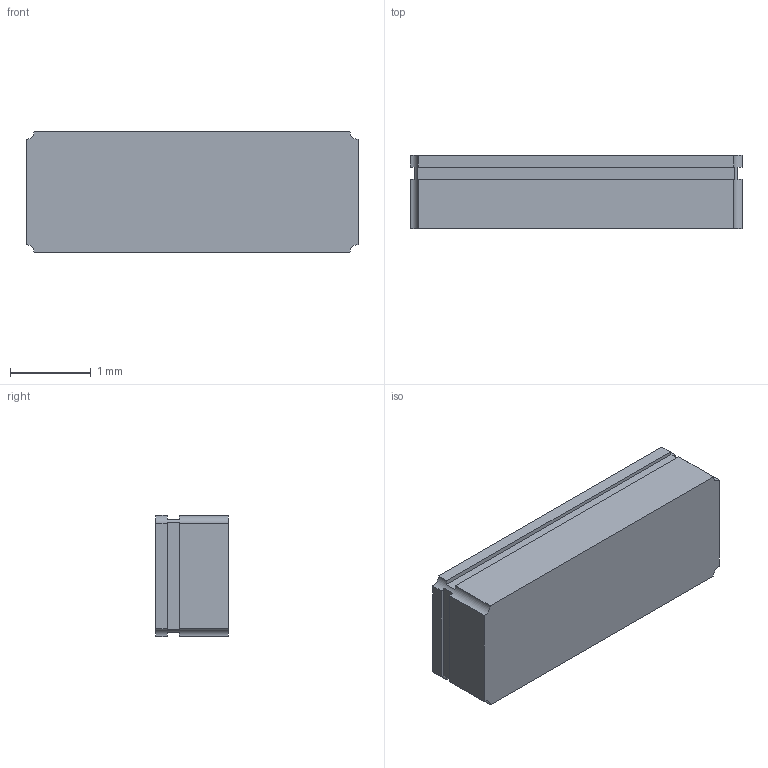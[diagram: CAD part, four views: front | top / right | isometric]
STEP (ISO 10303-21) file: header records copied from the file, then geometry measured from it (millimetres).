
FILE_DESCRIPTION(('STEP AP214'),'1');
FILE_NAME('XTAL_CC5V-T1A_MCX_2.step.stp','2025-12-22T16:42:18',(' '),(' '),'Spatial InterOp 3D',' ',' ');
FILE_SCHEMA(('AUTOMOTIVE_DESIGN { 1 0 10303 214 1 1 1 1 }'));
Length unit declared in the file: millimetre
Products named in the file (1): XTAL_CC5V-T1A_MCX_2
Bounding box: 4.1 x 0.9 x 1.5 mm (x, y, z)
Volume: 5.4 mm3; surface area: 23.2 mm2
Topology: 1 solids, 1 shells, 26 faces, 72 edges, 48 vertices
Faces by surface type: plane 22, cylinder 4
Entity records: 866 total; most frequent: DIRECTION 150, CARTESIAN_POINT 147, ORIENTED_EDGE 144, EDGE_CURVE 72, AXIS2_PLACEMENT_3D 51, VERTEX_POINT 48, LINE 48, VECTOR 48
